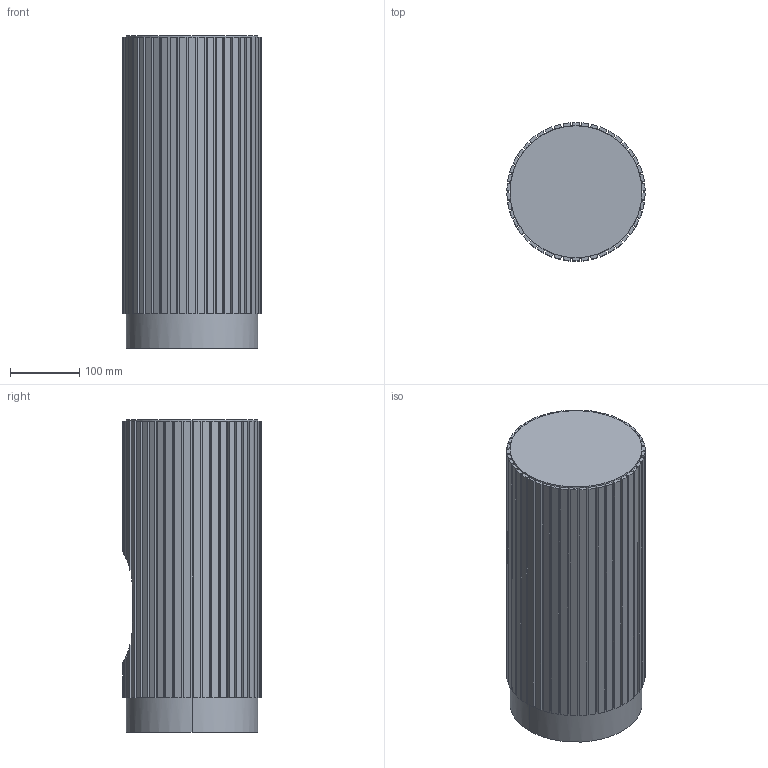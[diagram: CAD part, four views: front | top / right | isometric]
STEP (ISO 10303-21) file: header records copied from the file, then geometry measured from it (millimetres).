
FILE_DESCRIPTION(/* description */ (''),/* implementation_level */ '2;1');
FILE_NAME(/* name */ '8281_8282_PANAY',/* time_stamp */ '2025-03-31T11:34:14+02:00',/* author */ (''),/* organization */ (''),/* preprocessor_version */ 'ST-DEVELOPER v19.2',/* originating_system */ 'Rhino 8.17',/* authorisation */ '');
FILE_SCHEMA (('CONFIG_CONTROL_DESIGN'));
Length unit declared in the file: millimetre
Products named in the file (1): Document
Bounding box: 199.22 x 199 x 450 mm (x, y, z)
Volume: 3915744.6 mm3; surface area: 703165.4 mm2
Topology: 1 solids, 1 shells, 312 faces, 772 edges, 500 vertices
Faces by surface type: plane 267, cylinder 33, bspline 12
Entity records: 9209 total; most frequent: CARTESIAN_POINT 3089, ORIENTED_EDGE 1544, EDGE_CURVE 772, B_SPLINE_CURVE_WITH_KNOTS 615, DIRECTION 572, VERTEX_POINT 500, AXIS2_PLACEMENT_3D 435, EDGE_LOOP 358
